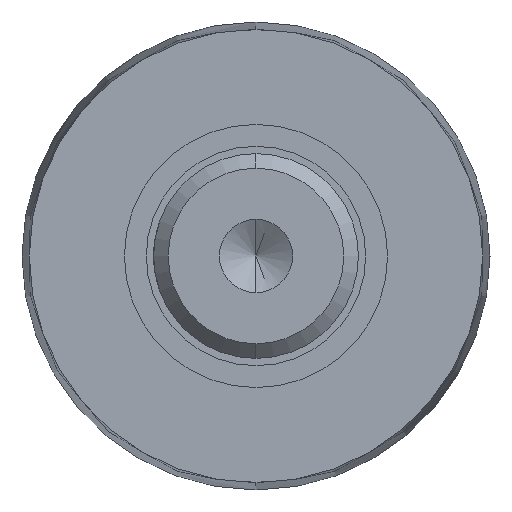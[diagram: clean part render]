
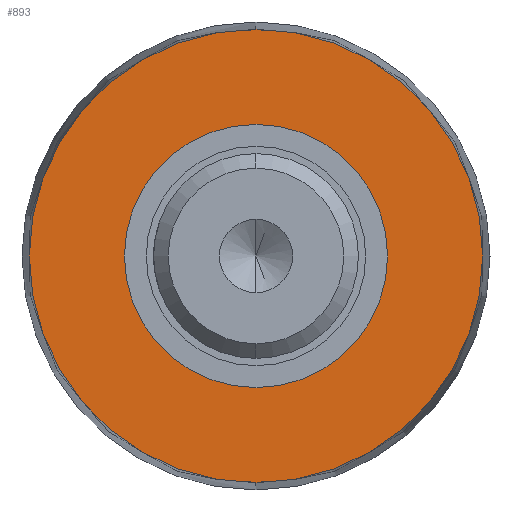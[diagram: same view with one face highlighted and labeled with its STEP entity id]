
A CAD part, left-side view. The second image highlights one B-rep face of the part: STEP entity #893.
In plain terms, the highlighted planar face has unit normal (-1, 0, 0).
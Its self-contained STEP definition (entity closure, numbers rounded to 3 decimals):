
#29 = EDGE_LOOP ( 'NONE', ( #1149, #1008 ) ) ;
#54 = CARTESIAN_POINT ( 'NONE',  ( 98.5, 0., 0. ) ) ;
#74 = DIRECTION ( 'NONE',  ( 0., 0., 1. ) ) ;
#84 = VERTEX_POINT ( 'NONE', #999 ) ;
#93 = EDGE_CURVE ( 'NONE', #241, #923, #846, .T. ) ;
#133 = AXIS2_PLACEMENT_3D ( 'NONE', #1300, #168, #1198 ) ;
#166 = CARTESIAN_POINT ( 'NONE',  ( 98.5, 0., 15.5 ) ) ;
#168 = DIRECTION ( 'NONE',  ( -1., 0., 0. ) ) ;
#240 = DIRECTION ( 'NONE',  ( -1., 0., 0. ) ) ;
#241 = VERTEX_POINT ( 'NONE', #1230 ) ;
#338 = AXIS2_PLACEMENT_3D ( 'NONE', #1175, #757, #455 ) ;
#358 = FACE_BOUND ( 'NONE', #740, .T. ) ;
#363 = CIRCLE ( 'NONE', #483, 9. ) ;
#384 = ORIENTED_EDGE ( 'NONE', *, *, #903, .T. ) ;
#455 = DIRECTION ( 'NONE',  ( 0., 0., -1. ) ) ;
#483 = AXIS2_PLACEMENT_3D ( 'NONE', #1192, #1098, #1301 ) ;
#486 = EDGE_CURVE ( 'NONE', #923, #241, #1110, .T. ) ;
#505 = CARTESIAN_POINT ( 'NONE',  ( 98.5, 0., 9. ) ) ;
#529 = DIRECTION ( 'NONE',  ( -1., 0., 0. ) ) ;
#740 = EDGE_LOOP ( 'NONE', ( #384, #1112 ) ) ;
#742 = EDGE_CURVE ( 'NONE', #1218, #84, #363, .T. ) ;
#743 = CIRCLE ( 'NONE', #338, 9. ) ;
#745 = CARTESIAN_POINT ( 'NONE',  ( 98.5, 16., 0. ) ) ;
#757 = DIRECTION ( 'NONE',  ( 1., 0., 0. ) ) ;
#846 = CIRCLE ( 'NONE', #133, 15.5 ) ;
#893 = ADVANCED_FACE ( 'NONE', ( #358, #1151 ), #940, .T. ) ;
#903 = EDGE_CURVE ( 'NONE', #84, #1218, #743, .T. ) ;
#923 = VERTEX_POINT ( 'NONE', #166 ) ;
#940 = PLANE ( 'NONE',  #949 ) ;
#949 = AXIS2_PLACEMENT_3D ( 'NONE', #745, #240, #74 ) ;
#999 = CARTESIAN_POINT ( 'NONE',  ( 98.5, 0., -9. ) ) ;
#1008 = ORIENTED_EDGE ( 'NONE', *, *, #486, .T. ) ;
#1098 = DIRECTION ( 'NONE',  ( 1., 0., 0. ) ) ;
#1110 = CIRCLE ( 'NONE', #1148, 15.5 ) ;
#1112 = ORIENTED_EDGE ( 'NONE', *, *, #742, .T. ) ;
#1148 = AXIS2_PLACEMENT_3D ( 'NONE', #54, #529, #1155 ) ;
#1149 = ORIENTED_EDGE ( 'NONE', *, *, #93, .T. ) ;
#1151 = FACE_OUTER_BOUND ( 'NONE', #29, .T. ) ;
#1155 = DIRECTION ( 'NONE',  ( 0., 0., 1. ) ) ;
#1175 = CARTESIAN_POINT ( 'NONE',  ( 98.5, 0., 0. ) ) ;
#1192 = CARTESIAN_POINT ( 'NONE',  ( 98.5, 0., 0. ) ) ;
#1198 = DIRECTION ( 'NONE',  ( 0., 0., 1. ) ) ;
#1218 = VERTEX_POINT ( 'NONE', #505 ) ;
#1230 = CARTESIAN_POINT ( 'NONE',  ( 98.5, 0., -15.5 ) ) ;
#1300 = CARTESIAN_POINT ( 'NONE',  ( 98.5, 0., 0. ) ) ;
#1301 = DIRECTION ( 'NONE',  ( 0., 0., -1. ) ) ;
